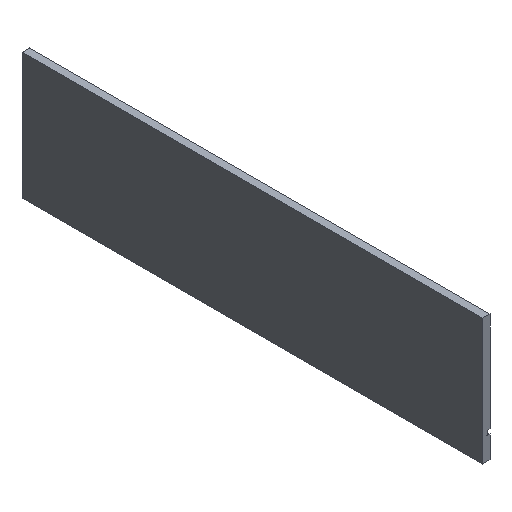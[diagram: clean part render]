
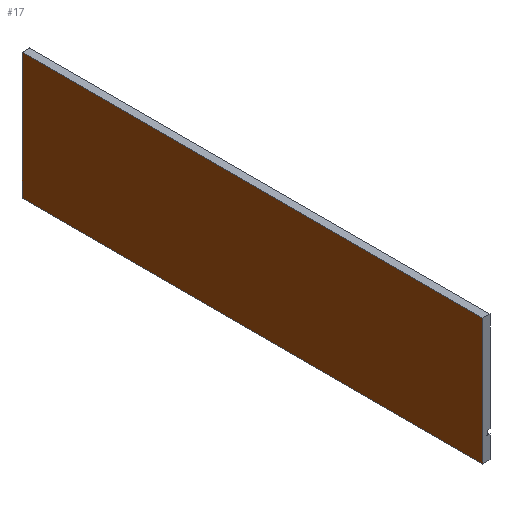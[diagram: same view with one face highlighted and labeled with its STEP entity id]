
A CAD part, isometric view. The second image highlights one B-rep face of the part: STEP entity #17.
In plain terms, the highlighted planar face has unit normal (-1, 0, 0).
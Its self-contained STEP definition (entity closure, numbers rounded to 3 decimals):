
#17 = ADVANCED_FACE('',(#18),#32,.F.);
#18 = FACE_BOUND('',#19,.F.);
#19 = EDGE_LOOP('',(#20,#55,#83,#111));
#20 = ORIENTED_EDGE('',*,*,#21,.F.);
#21 = EDGE_CURVE('',#22,#24,#26,.T.);
#22 = VERTEX_POINT('',#23);
#23 = CARTESIAN_POINT('',(85.,-62.,112.));
#24 = VERTEX_POINT('',#25);
#25 = CARTESIAN_POINT('',(85.,-62.,146.));
#26 = SURFACE_CURVE('',#27,(#31,#43),.PCURVE_S1.);
#27 = LINE('',#28,#29);
#28 = CARTESIAN_POINT('',(85.,-62.,112.));
#29 = VECTOR('',#30,1.);
#30 = DIRECTION('',(0.,0.,1.));
#31 = PCURVE('',#32,#37);
#32 = PLANE('',#33);
#33 = AXIS2_PLACEMENT_3D('',#34,#35,#36);
#34 = CARTESIAN_POINT('',(85.,-62.,112.));
#35 = DIRECTION('',(1.,0.,-0.));
#36 = DIRECTION('',(0.,0.,1.));
#37 = DEFINITIONAL_REPRESENTATION('',(#38),#42);
#38 = LINE('',#39,#40);
#39 = CARTESIAN_POINT('',(0.,0.));
#40 = VECTOR('',#41,1.);
#41 = DIRECTION('',(1.,0.));
#42 = ( GEOMETRIC_REPRESENTATION_CONTEXT(2) 
PARAMETRIC_REPRESENTATION_CONTEXT() REPRESENTATION_CONTEXT('2D SPACE',''
  ) );
#43 = PCURVE('',#44,#49);
#44 = PLANE('',#45);
#45 = AXIS2_PLACEMENT_3D('',#46,#47,#48);
#46 = CARTESIAN_POINT('',(85.,-62.,112.));
#47 = DIRECTION('',(-0.,1.,0.));
#48 = DIRECTION('',(0.,0.,1.));
#49 = DEFINITIONAL_REPRESENTATION('',(#50),#54);
#50 = LINE('',#51,#52);
#51 = CARTESIAN_POINT('',(0.,0.));
#52 = VECTOR('',#53,1.);
#53 = DIRECTION('',(1.,0.));
#54 = ( GEOMETRIC_REPRESENTATION_CONTEXT(2) 
PARAMETRIC_REPRESENTATION_CONTEXT() REPRESENTATION_CONTEXT('2D SPACE',''
  ) );
#55 = ORIENTED_EDGE('',*,*,#56,.T.);
#56 = EDGE_CURVE('',#22,#57,#59,.T.);
#57 = VERTEX_POINT('',#58);
#58 = CARTESIAN_POINT('',(85.,62.,112.));
#59 = SURFACE_CURVE('',#60,(#64,#71),.PCURVE_S1.);
#60 = LINE('',#61,#62);
#61 = CARTESIAN_POINT('',(85.,-62.,112.));
#62 = VECTOR('',#63,1.);
#63 = DIRECTION('',(-0.,1.,0.));
#64 = PCURVE('',#32,#65);
#65 = DEFINITIONAL_REPRESENTATION('',(#66),#70);
#66 = LINE('',#67,#68);
#67 = CARTESIAN_POINT('',(0.,0.));
#68 = VECTOR('',#69,1.);
#69 = DIRECTION('',(0.,-1.));
#70 = ( GEOMETRIC_REPRESENTATION_CONTEXT(2) 
PARAMETRIC_REPRESENTATION_CONTEXT() REPRESENTATION_CONTEXT('2D SPACE',''
  ) );
#71 = PCURVE('',#72,#77);
#72 = PLANE('',#73);
#73 = AXIS2_PLACEMENT_3D('',#74,#75,#76);
#74 = CARTESIAN_POINT('',(85.,-62.,112.));
#75 = DIRECTION('',(0.,0.,1.));
#76 = DIRECTION('',(1.,0.,-0.));
#77 = DEFINITIONAL_REPRESENTATION('',(#78),#82);
#78 = LINE('',#79,#80);
#79 = CARTESIAN_POINT('',(0.,0.));
#80 = VECTOR('',#81,1.);
#81 = DIRECTION('',(0.,1.));
#82 = ( GEOMETRIC_REPRESENTATION_CONTEXT(2) 
PARAMETRIC_REPRESENTATION_CONTEXT() REPRESENTATION_CONTEXT('2D SPACE',''
  ) );
#83 = ORIENTED_EDGE('',*,*,#84,.T.);
#84 = EDGE_CURVE('',#57,#85,#87,.T.);
#85 = VERTEX_POINT('',#86);
#86 = CARTESIAN_POINT('',(85.,62.,146.));
#87 = SURFACE_CURVE('',#88,(#92,#99),.PCURVE_S1.);
#88 = LINE('',#89,#90);
#89 = CARTESIAN_POINT('',(85.,62.,112.));
#90 = VECTOR('',#91,1.);
#91 = DIRECTION('',(0.,0.,1.));
#92 = PCURVE('',#32,#93);
#93 = DEFINITIONAL_REPRESENTATION('',(#94),#98);
#94 = LINE('',#95,#96);
#95 = CARTESIAN_POINT('',(0.,-124.));
#96 = VECTOR('',#97,1.);
#97 = DIRECTION('',(1.,0.));
#98 = ( GEOMETRIC_REPRESENTATION_CONTEXT(2) 
PARAMETRIC_REPRESENTATION_CONTEXT() REPRESENTATION_CONTEXT('2D SPACE',''
  ) );
#99 = PCURVE('',#100,#105);
#100 = PLANE('',#101);
#101 = AXIS2_PLACEMENT_3D('',#102,#103,#104);
#102 = CARTESIAN_POINT('',(85.,62.,112.));
#103 = DIRECTION('',(-0.,1.,0.));
#104 = DIRECTION('',(0.,0.,1.));
#105 = DEFINITIONAL_REPRESENTATION('',(#106),#110);
#106 = LINE('',#107,#108);
#107 = CARTESIAN_POINT('',(0.,0.));
#108 = VECTOR('',#109,1.);
#109 = DIRECTION('',(1.,0.));
#110 = ( GEOMETRIC_REPRESENTATION_CONTEXT(2) 
PARAMETRIC_REPRESENTATION_CONTEXT() REPRESENTATION_CONTEXT('2D SPACE',''
  ) );
#111 = ORIENTED_EDGE('',*,*,#112,.F.);
#112 = EDGE_CURVE('',#24,#85,#113,.T.);
#113 = SURFACE_CURVE('',#114,(#118,#125),.PCURVE_S1.);
#114 = LINE('',#115,#116);
#115 = CARTESIAN_POINT('',(85.,-62.,146.));
#116 = VECTOR('',#117,1.);
#117 = DIRECTION('',(-0.,1.,0.));
#118 = PCURVE('',#32,#119);
#119 = DEFINITIONAL_REPRESENTATION('',(#120),#124);
#120 = LINE('',#121,#122);
#121 = CARTESIAN_POINT('',(34.,0.));
#122 = VECTOR('',#123,1.);
#123 = DIRECTION('',(0.,-1.));
#124 = ( GEOMETRIC_REPRESENTATION_CONTEXT(2) 
PARAMETRIC_REPRESENTATION_CONTEXT() REPRESENTATION_CONTEXT('2D SPACE',''
  ) );
#125 = PCURVE('',#126,#131);
#126 = PLANE('',#127);
#127 = AXIS2_PLACEMENT_3D('',#128,#129,#130);
#128 = CARTESIAN_POINT('',(85.,-62.,146.));
#129 = DIRECTION('',(0.,0.,1.));
#130 = DIRECTION('',(1.,0.,-0.));
#131 = DEFINITIONAL_REPRESENTATION('',(#132),#136);
#132 = LINE('',#133,#134);
#133 = CARTESIAN_POINT('',(0.,0.));
#134 = VECTOR('',#135,1.);
#135 = DIRECTION('',(0.,1.));
#136 = ( GEOMETRIC_REPRESENTATION_CONTEXT(2) 
PARAMETRIC_REPRESENTATION_CONTEXT() REPRESENTATION_CONTEXT('2D SPACE',''
  ) );
